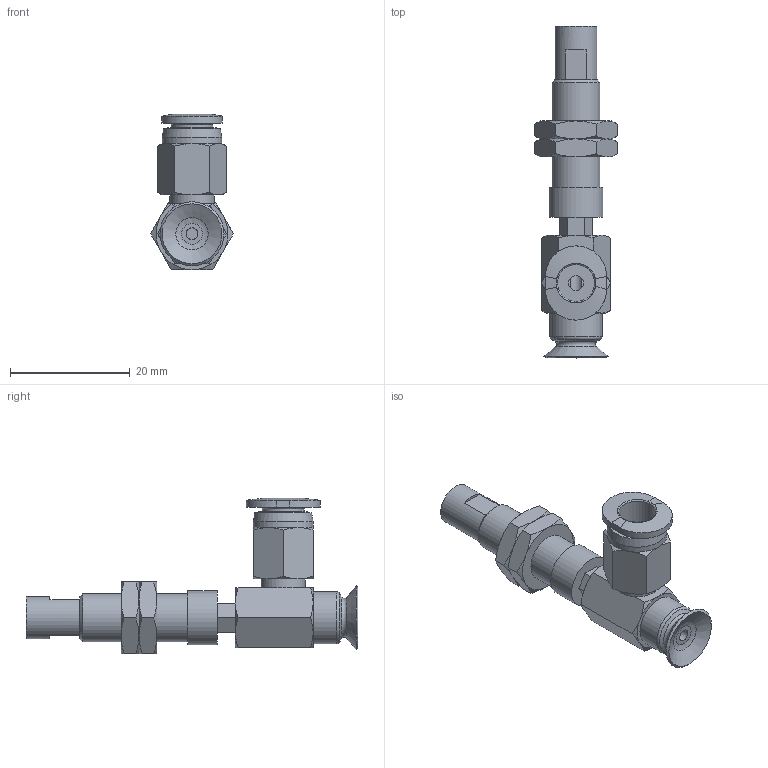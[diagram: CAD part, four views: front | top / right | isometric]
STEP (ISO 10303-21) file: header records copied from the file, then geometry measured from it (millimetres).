
FILE_DESCRIPTION(('STEP AP203'),'1');
FILE_NAME('-O.stp','2025-04-10T03:25:31',(' '),(' '),'Spatial InterOp 3D',' ',' ');
FILE_SCHEMA(('CONFIG_CONTROL_DESIGN'));
Length unit declared in the file: millimetre
Products named in the file (7): BNABPFYH-10A-3-※-O; CONNECTOR-H-10A-3; Nut-10A-3-h; NAPFTH-10A-3-FBODY; NAPFTH-10A-3-MBODY; BPFG-10A-※; PC-C_06-M5
Assembly tree (7 placements, depth 2):
  BNABPFYH-10A-3-※-O
    CONNECTOR-H-10A-3
    Nut-10A-3-h  x2
    NAPFTH-10A-3-FBODY
    NAPFTH-10A-3-MBODY
    BPFG-10A-※
    PC-C_06-M5
Bounding box: 13.86 x 55.5 x 25.98 mm (x, y, z)
Volume: 3378.2 mm3; surface area: 5182.3 mm2
Topology: 6 solids, 9 shells, 190 faces, 402 edges, 245 vertices
Faces by surface type: plane 81, cone 67, cylinder 24, torus 10, bspline 5, revolution 3
Full cylindrical faces by diameter (mm): 2 x2, 4 x4, 4.134 x2, 5 x2, 6 x2, 7 x2, 7.188 x2, 7.4 x1, 8 x1, 8.2 x1, 8.7 x1, 9 x1, 10 x1
Entity records: 4979 total; most frequent: CARTESIAN_POINT 1401, DIRECTION 663, ORIENTED_EDGE 586, EDGE_CURVE 295, AXIS2_PLACEMENT_3D 283, EDGE_LOOP 244, VERTEX_POINT 207, FACE_OUTER_BOUND 139
